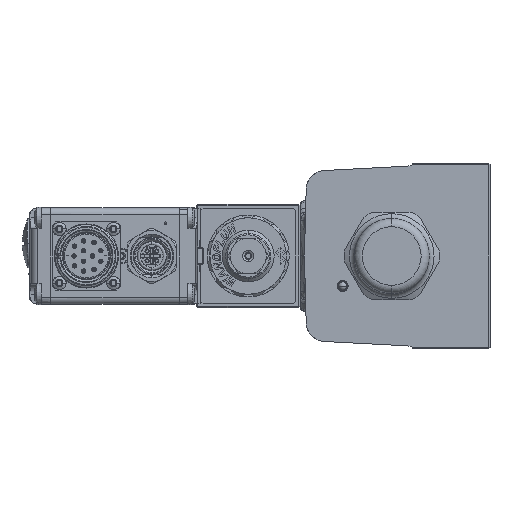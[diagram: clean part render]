
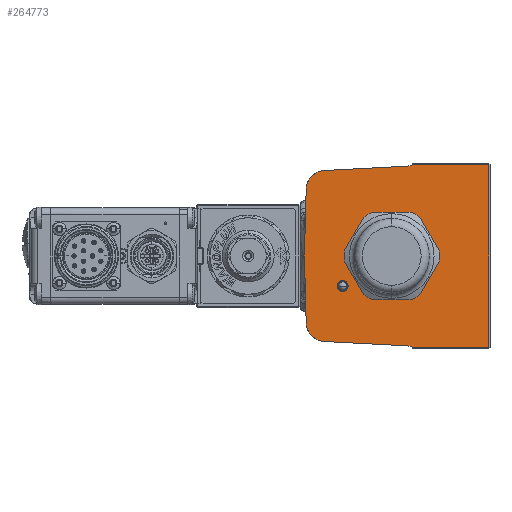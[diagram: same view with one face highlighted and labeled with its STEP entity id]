
A CAD part, left-side view. The second image highlights one B-rep face of the part: STEP entity #264773.
In plain terms, the highlighted planar face has unit normal (-1, 0, 0).
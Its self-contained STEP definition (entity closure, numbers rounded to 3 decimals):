
#1666 = CARTESIAN_POINT ( 'NONE',  ( -46.6, 31.358, 24.53 ) ) ;
#5412 = EDGE_LOOP ( 'NONE', ( #182468, #98307 ) ) ;
#10148 = LINE ( 'NONE', #109247, #177435 ) ;
#10218 = VERTEX_POINT ( 'NONE', #17832 ) ;
#10335 = EDGE_CURVE ( 'NONE', #279108, #271584, #10148, .T. ) ;
#13897 = EDGE_CURVE ( 'NONE', #199812, #271584, #13973, .T. ) ;
#13973 = CIRCLE ( 'NONE', #47051, 7. ) ;
#15123 = EDGE_LOOP ( 'NONE', ( #227486, #132825 ) ) ;
#17832 = CARTESIAN_POINT ( 'NONE',  ( -46.6, 18., -13. ) ) ;
#29652 = DIRECTION ( 'NONE',  ( 0., -0.999, 0.052 ) ) ;
#31226 = VECTOR ( 'NONE', #188190, 1000. ) ;
#32092 = CARTESIAN_POINT ( 'NONE',  ( -46.6, -35.5, -33.5 ) ) ;
#32770 = EDGE_LOOP ( 'NONE', ( #98475, #217915, #233093, #48152, #197292, #165348, #33621, #60278, #279637, #35558, #242508 ) ) ;
#33621 = ORIENTED_EDGE ( 'NONE', *, *, #152288, .T. ) ;
#33768 = LINE ( 'NONE', #226408, #143000 ) ;
#35036 = EDGE_CURVE ( 'NONE', #263489, #172765, #247665, .T. ) ;
#35558 = ORIENTED_EDGE ( 'NONE', *, *, #13897, .F. ) ;
#38494 = CARTESIAN_POINT ( 'NONE',  ( -46.6, 0., 0. ) ) ;
#41749 = EDGE_CURVE ( 'NONE', #249941, #226119, #77769, .T. ) ;
#46301 = DIRECTION ( 'NONE',  ( -1., 0., 0. ) ) ;
#46592 = AXIS2_PLACEMENT_3D ( 'NONE', #180349, #49640, #202280 ) ;
#47051 = AXIS2_PLACEMENT_3D ( 'NONE', #224888, #94271, #246823 ) ;
#48152 = ORIENTED_EDGE ( 'NONE', *, *, #182639, .T. ) ;
#49640 = DIRECTION ( 'NONE',  ( -1., 0., 0. ) ) ;
#51331 = DIRECTION ( 'NONE',  ( -1., 0., 0. ) ) ;
#54729 = DIRECTION ( 'NONE',  ( -1., 0., 0. ) ) ;
#57438 = CARTESIAN_POINT ( 'NONE',  ( -46.6, 31.978, 0.837 ) ) ;
#60278 = ORIENTED_EDGE ( 'NONE', *, *, #276116, .F. ) ;
#60428 = DIRECTION ( 'NONE',  ( 0., -1., 0. ) ) ;
#60501 = CARTESIAN_POINT ( 'NONE',  ( -46.6, -7.444, 33.5 ) ) ;
#63760 = VECTOR ( 'NONE', #29652, 1000. ) ;
#65439 = CARTESIAN_POINT ( 'NONE',  ( -46.6, -5.693, 35.936 ) ) ;
#67742 = VERTEX_POINT ( 'NONE', #259316 ) ;
#68760 = LINE ( 'NONE', #57438, #31226 ) ;
#69923 = AXIS2_PLACEMENT_3D ( 'NONE', #65439, #218119, #87413 ) ;
#77769 = CIRCLE ( 'NONE', #69923, 3. ) ;
#79505 = CIRCLE ( 'NONE', #207061, 16. ) ;
#81299 = CIRCLE ( 'NONE', #219652, 3. ) ;
#82538 = CARTESIAN_POINT ( 'NONE',  ( -46.6, 24.726, -31.337 ) ) ;
#87413 = DIRECTION ( 'NONE',  ( 0., 0., 1. ) ) ;
#88564 = CARTESIAN_POINT ( 'NONE',  ( -46.6, -5.85, 32.94 ) ) ;
#90050 = FACE_BOUND ( 'NONE', #5412, .T. ) ;
#91209 = VERTEX_POINT ( 'NONE', #1666 ) ;
#94271 = DIRECTION ( 'NONE',  ( 1., 0., 0. ) ) ;
#98307 = ORIENTED_EDGE ( 'NONE', *, *, #217363, .F. ) ;
#98475 = ORIENTED_EDGE ( 'NONE', *, *, #103454, .T. ) ;
#99078 = CARTESIAN_POINT ( 'NONE',  ( -46.6, -35.5, -34. ) ) ;
#103454 = EDGE_CURVE ( 'NONE', #67742, #221216, #81299, .T. ) ;
#108060 = CARTESIAN_POINT ( 'NONE',  ( -46.6, -36., -34. ) ) ;
#109247 = CARTESIAN_POINT ( 'NONE',  ( -46.6, 31.978, -0.837 ) ) ;
#113395 = CIRCLE ( 'NONE', #46592, 2. ) ;
#115226 = CARTESIAN_POINT ( 'NONE',  ( -46.6, -5.693, -35.936 ) ) ;
#115879 = LINE ( 'NONE', #99078, #167045 ) ;
#119202 = CARTESIAN_POINT ( 'NONE',  ( -46.6, 24.726, 31.337 ) ) ;
#119492 = VECTOR ( 'NONE', #144118, 1000. ) ;
#121042 = DIRECTION ( 'NONE',  ( 0., 0., 1. ) ) ;
#130001 = DIRECTION ( 'NONE',  ( 0., 0., 1. ) ) ;
#132825 = ORIENTED_EDGE ( 'NONE', *, *, #240341, .F. ) ;
#137157 = DIRECTION ( 'NONE',  ( 0., 0., 1. ) ) ;
#138960 = LINE ( 'NONE', #175892, #254855 ) ;
#141235 = FACE_OUTER_BOUND ( 'NONE', #32770, .T. ) ;
#141391 = AXIS2_PLACEMENT_3D ( 'NONE', #182055, #51331, #203931 ) ;
#143000 = VECTOR ( 'NONE', #271117, 1000. ) ;
#143284 = CIRCLE ( 'NONE', #220598, 2. ) ;
#143655 = AXIS2_PLACEMENT_3D ( 'NONE', #108060, #260525, #130001 ) ;
#144118 = DIRECTION ( 'NONE',  ( 0., -0.999, -0.052 ) ) ;
#148408 = EDGE_CURVE ( 'NONE', #175964, #226119, #230930, .T. ) ;
#152288 = EDGE_CURVE ( 'NONE', #175964, #91209, #222331, .T. ) ;
#160372 = CARTESIAN_POINT ( 'NONE',  ( -46.6, 1.706, 32.544 ) ) ;
#160993 = CARTESIAN_POINT ( 'NONE',  ( -46.6, -7.444, -33.5 ) ) ;
#165348 = ORIENTED_EDGE ( 'NONE', *, *, #148408, .F. ) ;
#167045 = VECTOR ( 'NONE', #121042, 1000. ) ;
#172765 = VERTEX_POINT ( 'NONE', #181820 ) ;
#175251 = AXIS2_PLACEMENT_3D ( 'NONE', #38494, #191254, #60428 ) ;
#175892 = CARTESIAN_POINT ( 'NONE',  ( -46.6, -36., 33.5 ) ) ;
#175964 = VERTEX_POINT ( 'NONE', #119202 ) ;
#177007 = CARTESIAN_POINT ( 'NONE',  ( -46.6, 18., -11. ) ) ;
#177435 = VECTOR ( 'NONE', #237941, 1000. ) ;
#179873 = EDGE_CURVE ( 'NONE', #199812, #67742, #235435, .T. ) ;
#180349 = CARTESIAN_POINT ( 'NONE',  ( -46.6, 18., -11. ) ) ;
#181820 = CARTESIAN_POINT ( 'NONE',  ( -46.6, 16., 0. ) ) ;
#182055 = CARTESIAN_POINT ( 'NONE',  ( -46.6, 24.36, 24.347 ) ) ;
#182468 = ORIENTED_EDGE ( 'NONE', *, *, #35036, .F. ) ;
#182639 = EDGE_CURVE ( 'NONE', #237336, #249941, #138960, .T. ) ;
#185489 = CARTESIAN_POINT ( 'NONE',  ( -46.6, 0., 0. ) ) ;
#188063 = CARTESIAN_POINT ( 'NONE',  ( -46.6, -16., 0. ) ) ;
#188190 = DIRECTION ( 'NONE',  ( 0., -0.026, 1. ) ) ;
#191254 = DIRECTION ( 'NONE',  ( -1., 0., 0. ) ) ;
#197292 = ORIENTED_EDGE ( 'NONE', *, *, #41749, .T. ) ;
#198837 = CARTESIAN_POINT ( 'NONE',  ( -46.6, -35.5, 33.5 ) ) ;
#198967 = DIRECTION ( 'NONE',  ( 0., 0., 1. ) ) ;
#199812 = VERTEX_POINT ( 'NONE', #82538 ) ;
#202280 = DIRECTION ( 'NONE',  ( 0., 0., 1. ) ) ;
#203931 = DIRECTION ( 'NONE',  ( 0., 0., 1. ) ) ;
#207061 = AXIS2_PLACEMENT_3D ( 'NONE', #185489, #54729, #207309 ) ;
#207309 = DIRECTION ( 'NONE',  ( 0., -1., 0. ) ) ;
#207345 = EDGE_CURVE ( 'NONE', #221289, #237336, #115879, .T. ) ;
#217363 = EDGE_CURVE ( 'NONE', #172765, #263489, #79505, .T. ) ;
#217915 = ORIENTED_EDGE ( 'NONE', *, *, #270128, .T. ) ;
#218119 = DIRECTION ( 'NONE',  ( 1., 0., 0. ) ) ;
#219652 = AXIS2_PLACEMENT_3D ( 'NONE', #115226, #267672, #137157 ) ;
#220598 = AXIS2_PLACEMENT_3D ( 'NONE', #177007, #46301, #198967 ) ;
#221216 = VERTEX_POINT ( 'NONE', #160993 ) ;
#221289 = VERTEX_POINT ( 'NONE', #32092 ) ;
#222331 = CIRCLE ( 'NONE', #141391, 7. ) ;
#224888 = CARTESIAN_POINT ( 'NONE',  ( -46.6, 24.36, -24.347 ) ) ;
#226119 = VERTEX_POINT ( 'NONE', #88564 ) ;
#226408 = CARTESIAN_POINT ( 'NONE',  ( -46.6, -36., -33.5 ) ) ;
#227486 = ORIENTED_EDGE ( 'NONE', *, *, #269949, .F. ) ;
#229848 = CARTESIAN_POINT ( 'NONE',  ( -46.6, 1.706, -32.544 ) ) ;
#230930 = LINE ( 'NONE', #160372, #63760 ) ;
#233093 = ORIENTED_EDGE ( 'NONE', *, *, #207345, .T. ) ;
#235435 = LINE ( 'NONE', #229848, #119492 ) ;
#237336 = VERTEX_POINT ( 'NONE', #198837 ) ;
#237671 = PLANE ( 'NONE',  #143655 ) ;
#237941 = DIRECTION ( 'NONE',  ( 0., -0.026, -1. ) ) ;
#240341 = EDGE_CURVE ( 'NONE', #10218, #255016, #113395, .T. ) ;
#240838 = CARTESIAN_POINT ( 'NONE',  ( -46.6, 32., 0. ) ) ;
#242508 = ORIENTED_EDGE ( 'NONE', *, *, #179873, .T. ) ;
#246823 = DIRECTION ( 'NONE',  ( 0., 0., 1. ) ) ;
#247665 = CIRCLE ( 'NONE', #175251, 16. ) ;
#249941 = VERTEX_POINT ( 'NONE', #60501 ) ;
#250820 = CARTESIAN_POINT ( 'NONE',  ( -46.6, 31.358, -24.53 ) ) ;
#254855 = VECTOR ( 'NONE', #261579, 1000. ) ;
#255016 = VERTEX_POINT ( 'NONE', #272844 ) ;
#257174 = FACE_BOUND ( 'NONE', #15123, .T. ) ;
#259316 = CARTESIAN_POINT ( 'NONE',  ( -46.6, -5.85, -32.94 ) ) ;
#260525 = DIRECTION ( 'NONE',  ( -1., 0., 0. ) ) ;
#261579 = DIRECTION ( 'NONE',  ( 0., 1., 0. ) ) ;
#263489 = VERTEX_POINT ( 'NONE', #188063 ) ;
#264773 = ADVANCED_FACE ( 'NONE', ( #257174, #141235, #90050 ), #237671, .T. ) ;
#267672 = DIRECTION ( 'NONE',  ( 1., 0., 0. ) ) ;
#269949 = EDGE_CURVE ( 'NONE', #255016, #10218, #143284, .T. ) ;
#270128 = EDGE_CURVE ( 'NONE', #221216, #221289, #33768, .T. ) ;
#271117 = DIRECTION ( 'NONE',  ( 0., -1., 0. ) ) ;
#271584 = VERTEX_POINT ( 'NONE', #250820 ) ;
#272844 = CARTESIAN_POINT ( 'NONE',  ( -46.6, 18., -9. ) ) ;
#276116 = EDGE_CURVE ( 'NONE', #279108, #91209, #68760, .T. ) ;
#279108 = VERTEX_POINT ( 'NONE', #240838 ) ;
#279637 = ORIENTED_EDGE ( 'NONE', *, *, #10335, .T. ) ;
